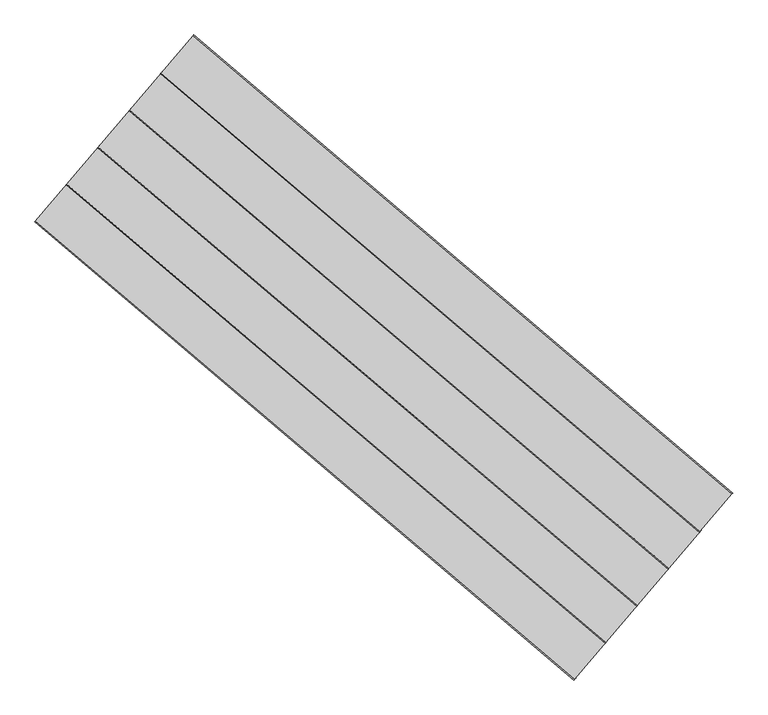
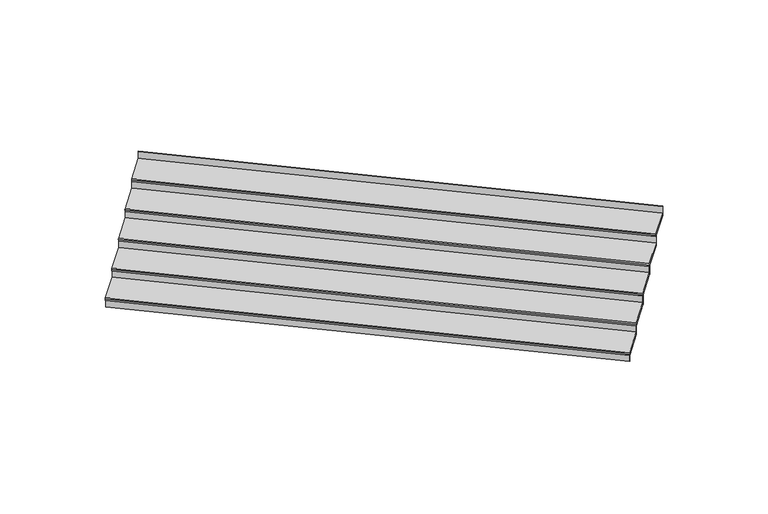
"""IFC4 building model written with IfcOpenShell, lengths in millimetres: stair flight geometry, Wood Steps with 50 mm Tread 20 mm Nosing 13 mm Riser."""

import ifcopenshell
import ifcopenshell.guid

model = None  # the IFC model being written
_history = None  # IfcOwnerHistory: only IFC2X3 demands one
_inside = {}  # id of a spatial element -> (the spatial element, [elements in it])
_under = {}  # id of a project, library or spatial element -> (it, [spatial elements below it])
_declared = {}  # id of a project -> (the project, [libraries it declares])
_typed = {}  # id of a type object -> (the type object, [elements of that type])
_made_of = {}  # id of a material, layer set ... -> (it, [elements and type objects made of it])


def new_model(schema):
    """Start an empty IFC model of exactly this schema.

    Asked for "IFC4X3", IfcOpenShell would pick the latest addendum, in which some entities
    have other attributes; the version numbers below select the first issue.
    IFC2X3 requires an IfcOwnerHistory on every rooted entity: one is made here for all.
    """
    global model, _history
    if schema == "IFC4X3":
        model = ifcopenshell.file(schema_version=(4, 3, 0, 0))
    else:
        model = ifcopenshell.file(schema=schema)
    _inside.clear()
    _under.clear()
    _declared.clear()
    _typed.clear()
    _made_of.clear()
    _history = None
    if model.schema == "IFC2X3":
        org = make("IfcOrganization", Name="unknown")
        user = make(
            "IfcPersonAndOrganization",
            ThePerson=make("IfcPerson", FamilyName="unknown"),
            TheOrganization=org,
        )
        app = make(
            "IfcApplication",
            ApplicationDeveloper=org,
            Version="unknown",
            ApplicationFullName="unknown",
            ApplicationIdentifier="unknown",
        )
        _history = make(
            "IfcOwnerHistory",
            OwningUser=user,
            OwningApplication=app,
            ChangeAction="ADDED",
            CreationDate=0,
        )
    return model


def make(cls, **values):
    """One entity of the class cls with the attributes given. An attribute that is None is left unset."""
    return model.create_entity(
        cls, **{name: value for name, value in values.items() if value is not None}
    )


def rooted(cls, **values):
    """An entity with a GlobalId (a new one), such as an element, a storey or a relation."""
    return make(cls, GlobalId=ifcopenshell.guid.new(), OwnerHistory=_history, **values)


def si_unit(unit_type, name, prefix=None):
    """IfcSIUnit, for example si_unit("LENGTHUNIT", "METRE", prefix="MILLI")."""
    return make("IfcSIUnit", UnitType=unit_type, Prefix=prefix, Name=name)


def assignment(units):
    """IfcUnitAssignment: the units of a project."""
    return None if units is None else make("IfcUnitAssignment", Units=units)


def point(xyz):
    """IfcCartesianPoint."""
    return None if xyz is None else make("IfcCartesianPoint", Coordinates=xyz)


def direction(xyz):
    """IfcDirection."""
    return None if xyz is None else make("IfcDirection", DirectionRatios=xyz)


def frame(location, z_axis=None, x_axis=None):
    """IfcAxis2Placement3D, a coordinate frame: its origin and axes. An axis left out is left unset."""
    return make(
        "IfcAxis2Placement3D",
        Location=point(location),
        Axis=direction(z_axis),
        RefDirection=direction(x_axis),
    )


def origin():
    """The frame at (0, 0, 0) with its axes left unset."""
    return frame((0.0, 0.0, 0.0))


def place(relative_to, where):
    """IfcLocalPlacement: puts the frame where relative to a parent placement (None: the world)."""
    return make(
        "IfcLocalPlacement", PlacementRelTo=relative_to, RelativePlacement=where
    )


def context(
    kind, dimensions, precision=None, world=None, true_north=None, identifier=None
):
    """IfcGeometricRepresentationContext, for example the 3D "Model" context."""
    return make(
        "IfcGeometricRepresentationContext",
        ContextIdentifier=identifier,
        ContextType=kind,
        CoordinateSpaceDimension=dimensions,
        Precision=precision,
        WorldCoordinateSystem=world,
        TrueNorth=true_north,
    )


def project(units=None, contexts=None):
    """IfcProject with its units and contexts."""
    return rooted(
        "IfcProject",
        Name="project",
        RepresentationContexts=contexts,
        UnitsInContext=assignment(units),
    )


def spatial(cls, under=None, at=None, **own):
    """A site, building, storey or space (cls), placed at a placement, below another one or the project."""
    s = rooted(cls, ObjectPlacement=at, **own)
    if under is not None:
        _under.setdefault(under.id(), (under, []))[1].append(s)
    return s


def ellipse_curve(where, semi_axis1, semi_axis2):
    """IfcEllipse in the frame where."""
    return make(
        "IfcEllipse", Position=where, SemiAxis1=semi_axis1, SemiAxis2=semi_axis2
    )


def faces_of(points, faces, orient=None, outer=None):
    """IfcFace entities. A face is a list of loops; a loop is a list of indices into points, from 0.

    orient and outer hold one flag for each loop. By default every Orientation is true, the
    first loop of a face is its IfcFaceOuterBound and the others are IfcFaceBound.
    """
    made = []
    for i, loops in enumerate(faces):
        bounds = []
        for j, loop in enumerate(loops):
            is_outer = j == 0 if outer is None else outer[i][j]
            bounds.append(
                make(
                    "IfcFaceOuterBound" if is_outer else "IfcFaceBound",
                    Bound=make("IfcPolyLoop", Polygon=[points[k] for k in loop]),
                    Orientation=True if orient is None else orient[i][j],
                )
            )
        made.append(make("IfcFace", Bounds=bounds))
    return made


def faceted_brep(points, faces, orient=None, outer=None, voids=None):
    """IfcFacetedBrep: a solid bounded by flat faces; with voids (closed shells), ...WithVoids."""
    shared = [point(p) for p in points]
    hull = make("IfcClosedShell", CfsFaces=faces_of(shared, faces, orient, outer))
    if voids is None:
        return make("IfcFacetedBrep", Outer=hull)
    return make(
        "IfcFacetedBrepWithVoids",
        Outer=hull,
        Voids=[
            make(cls, CfsFaces=faces_of(shared, fs, o, b)) for cls, fs, o, b in voids
        ],
    )


def shape(context_of_items, identifier, shape_type, items):
    """IfcShapeRepresentation: the items that make up one representation, for example the "Body"."""
    return make(
        "IfcShapeRepresentation",
        ContextOfItems=context_of_items,
        RepresentationIdentifier=identifier,
        RepresentationType=shape_type,
        Items=items,
    )


def source(mapping_origin, context_of_items, identifier, shape_type, items):
    """IfcRepresentationMap: a shape defined once, which mapped items show again and again."""
    return make(
        "IfcRepresentationMap",
        MappingOrigin=mapping_origin,
        MappedRepresentation=shape(context_of_items, identifier, shape_type, items),
    )


def transform(
    local_origin,
    x_axis=None,
    y_axis=None,
    z_axis=None,
    scale=None,
    scale2=None,
    scale3=None,
    uniform=True,
):
    """IfcCartesianTransformationOperator3D, or its non-uniform kind. x_axis, y_axis, z_axis: its Axis1, 2, 3."""
    if uniform:
        return make(
            "IfcCartesianTransformationOperator3D",
            Axis1=direction(x_axis),
            Axis2=direction(y_axis),
            LocalOrigin=point(local_origin),
            Scale=scale,
            Axis3=direction(z_axis),
        )
    return make(
        "IfcCartesianTransformationOperator3DnonUniform",
        Axis1=direction(x_axis),
        Axis2=direction(y_axis),
        LocalOrigin=point(local_origin),
        Scale=scale,
        Axis3=direction(z_axis),
        Scale2=scale2,
        Scale3=scale3,
    )


def mapped(mapping_source, mapping_target):
    """IfcMappedItem: shows the shape of a source again, moved by a transform."""
    return make(
        "IfcMappedItem", MappingSource=mapping_source, MappingTarget=mapping_target
    )


def made_of(thing, what):
    """Note that an element or type object is made of a material, layer set ...; save() writes the relation."""
    if what is not None:
        _made_of.setdefault(what.id(), (what, []))[1].append(thing)
    return thing


def element(
    cls,
    number,
    at=None,
    inside=None,
    cuts=None,
    type_object=None,
    material=None,
    context=None,
    identifier="Body",
    shape_type=None,
    held_by="IfcProductDefinitionShape",
    body=None,
    shapes=None,
    **own,
):
    """One element of the class cls, such as IfcWall. Its Tag is "e" and its number.

    at: its placement. inside: the storey or other place that contains it. cuts: it is an
    opening in that element (IfcRelVoidsElement). A single representation is given by context,
    identifier, shape_type and body (its items); several are given by shapes. held_by: the class
    of the entity that holds the representations. save() writes the other relations.
    """
    e = rooted(cls, Tag="e%d" % number, ObjectPlacement=at, **own)
    if body is not None:
        shapes = [shape(context, identifier, shape_type, body)]
    if shapes is not None:
        e.Representation = make(held_by, Representations=shapes)
    if inside is not None:
        _inside.setdefault(inside.id(), (inside, []))[1].append(e)
    if cuts is not None:
        rooted(
            "IfcRelVoidsElement", RelatingBuildingElement=cuts, RelatedOpeningElement=e
        )
    if type_object is not None:
        _typed.setdefault(type_object.id(), (type_object, []))[1].append(e)
    return made_of(e, material)


def aggregate(whole, parts):
    """IfcRelAggregates: a whole, such as a stair, and the parts it consists of."""
    return rooted("IfcRelAggregates", RelatingObject=whole, RelatedObjects=parts)


def save(model, path):
    """Write the relations noted so far, then the file.

    IfcRelAggregates (storeys below a building ...), IfcRelContainedInSpatialStructure (elements
    in a storey), IfcRelDefinesByType, IfcRelAssociatesMaterial and IfcRelDeclares: one each for
    every whole, place, type object, material and project.
    """
    for whole, parts in _under.values():
        aggregate(whole, parts)
    for where, things in _inside.values():
        rooted(
            "IfcRelContainedInSpatialStructure",
            RelatedElements=things,
            RelatingStructure=where,
        )
    for kind, things in _typed.values():
        rooted("IfcRelDefinesByType", RelatedObjects=things, RelatingType=kind)
    for what, things in _made_of.values():
        rooted("IfcRelAssociatesMaterial", RelatedObjects=things, RelatingMaterial=what)
    for by, libraries in _declared.values():
        rooted("IfcRelDeclares", RelatingContext=by, RelatedDefinitions=libraries)
    model.write(path)


def plane_surface(at):
    """IfcPlane: the flat surface through the origin of the frame at, square to its z axis."""
    return make("IfcPlane", Position=at)


def cylinder_surface(at, radius):
    """IfcCylindricalSurface: all points at the distance radius from the z axis of the frame at."""
    return make("IfcCylindricalSurface", Position=at, Radius=radius)


def advanced_brep(points, edges, surfaces, faces):
    """IfcAdvancedBrep: a solid bounded by faces that lie on surfaces and meet in shared edges.

    An edge is (start, end): straight between two places in points (the first is 0);
    or (start, end, curve); or (start, end, curve, False) where it runs against its curve.
    A face is (place in surfaces, loops), or (place, loops, False) where it looks against
    its surface's normal. A loop lists edges by number (the first is 1), with a minus sign
    where the edge is run from its end to its start. The first loop is the outer one.
    """
    corners = [point(p) for p in points]
    vertices = [make("IfcVertexPoint", VertexGeometry=c) for c in corners]
    made = []
    for start, end, *more in edges:
        made.append(
            make(
                "IfcEdgeCurve",
                EdgeStart=vertices[start],
                EdgeEnd=vertices[end],
                EdgeGeometry=more[0] if more else make("IfcPolyline", Points=[corners[start], corners[end]]),
                SameSense=more[1] if len(more) > 1 else True,
            )
        )
    hull = []
    for where, loops, *sense in faces:
        bounds = []
        for j, loop in enumerate(loops):
            ring = [make("IfcOrientedEdge", EdgeElement=made[abs(k) - 1], Orientation=k > 0) for k in loop]
            bounds.append(
                make(
                    "IfcFaceOuterBound" if j == 0 else "IfcFaceBound",
                    Bound=make("IfcEdgeLoop", EdgeList=ring),
                    Orientation=True,
                )
            )
        hull.append(make("IfcAdvancedFace", Bounds=bounds, FaceSurface=surfaces[where], SameSense=sense[0] if sense else True))
    return make("IfcAdvancedBrep", Outer=make("IfcClosedShell", CfsFaces=hull))


def stair_flight_a48ab2fe(model_context):
    return source(origin(), model_context, "Body", "SolidModel", [
        advanced_brep(
        [(899441.7619784, 8342.8773139, 5159.2941176), (899441.7619784, 8342.8773139, 5179.2941176), (892900.955153, 13898.7750034, 5179.2941176), (892900.955153, 13898.7750034, 5159.2941176), (893288.3399748, 14354.8763657, 5179.2941176), (899829.1468001, 8798.9786762, 5179.2941176), (892900.955153, 13898.7750034, 5129.2941176), (893288.3399748, 14354.8763657, 5129.2941176), (899829.1468001, 8798.9786762, 5129.2941176), (899441.7619784, 8342.8773139, 5129.2941176)],
        [
            (0, 1, ellipse_curve(frame((899441.7619784, 8342.8773139, 5169.2941176), z_axis=(-0.762187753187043, 0.6473560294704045, 0.0), x_axis=(-0.6473560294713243, -0.7621877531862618, 0.0)), 10.0, 10.0)),
            (1, 2),
            (2, 3, ellipse_curve(frame((892900.955153, 13898.7750034, 5169.2941176), z_axis=(0.7621877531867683, -0.647356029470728, 0.0), x_axis=(-0.6473560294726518, -0.7621877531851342, 0.0)), 10.0, 10.0)),
            (3, 0),
            (4, 2),
            (1, 5),
            (5, 4),
            (6, 7),
            (7, 8),
            (8, 9),
            (9, 6),
            (4, 7),
            (6, 3),
            (9, 0),
            (8, 5),
        ],
        [
            cylinder_surface(frame((899441.7619784, 8342.8773139, 5169.2941176), z_axis=(0.7621570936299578, -0.6473921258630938, 0.0), x_axis=(0.6473921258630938, 0.7621570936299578, 0.0)), 10.0),
            plane_surface(frame((896820.6102612, 18513.7210055, 5179.2941176), z_axis=(0.0, 0.0, 1.0000000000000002), x_axis=(-0.647356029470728, -0.7621877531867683, 0.0))),
            plane_surface(frame((896820.6102612, 18513.7210055, 5129.2941176), z_axis=(0.0, 0.0, -1.0000000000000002), x_axis=(0.647356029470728, 0.7621877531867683, 0.0))),
            plane_surface(frame((893288.3399748, 14354.8763657, 5179.2941176), z_axis=(-0.7621877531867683, 0.647356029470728, 0.0), x_axis=(0.0, 0.0, -1.0))),
            plane_surface(frame((892900.955153, 13898.7750034, 5179.2941176), z_axis=(-0.6473921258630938, -0.7621570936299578, 0.0), x_axis=(0.0, 0.0, -1.0))),
            plane_surface(frame((899441.7619784, 8342.8773139, 5179.2941176), z_axis=(0.762187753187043, -0.6473560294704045, 0.0), x_axis=(0.0, 0.0, -1.0))),
            plane_surface(frame((899829.1468001, 8798.9786762, 5179.2941176), z_axis=(0.6473921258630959, 0.762157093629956, 0.0), x_axis=(0.0, 0.0, -1.0))),
        ],
        [
            (0, [[1, 2, 3, 4]]),
            (1, [[5, -2, 6, 7]]),
            (2, [[8, 9, 10, 11]]),
            (3, [[-5, 12, -8, 13, -3]]),
            (4, [[-11, 14, -4, -13]]),
            (5, [[-6, -1, -14, -10, 15]]),
            (6, [[-7, -15, -9, -12]]),
        ],
    ),
        faceted_brep([(899448.2355387, 8350.4991914, 5129.2941176), (899448.2355387, 8350.4991914, 5000.0), (899456.327489, 8360.0265383, 5000.0), (899456.327489, 8360.0265383, 5129.2941176), (892907.4287133, 13906.3968809, 5129.2941176), (892915.5206637, 13915.9242278, 5129.2941176), (892915.5206637, 13915.9242278, 5000.0), (892907.4287133, 13906.3968809, 5000.0)], [[[0, 1, 2, 3]], [[4, 5, 6, 7]], [[1, 0, 4, 7]], [[2, 1, 7, 6]], [[3, 2, 6, 5]], [[0, 3, 5, 4]]]),
        faceted_brep([(899829.1468001, 8798.9786762, 5308.5882353), (899829.1468001, 8798.9786762, 5129.2941176), (899837.2387505, 8808.5060231, 5129.2941176), (899837.2387505, 8808.5060231, 5308.5882353), (893288.3399748, 14354.8763657, 5308.5882353), (893296.4319251, 14364.4037126, 5308.5882353), (893296.4319251, 14364.4037126, 5129.2941176), (893288.3399748, 14354.8763657, 5129.2941176)], [[[0, 1, 2, 3]], [[4, 5, 6, 7]], [[1, 0, 4, 7]], [[2, 1, 7, 6]], [[3, 2, 6, 5]], [[0, 3, 5, 4]]]),
        advanced_brep(
        [(893669.2512362, 14803.3558504, 5358.5882353), (893281.8664145, 14347.2544881, 5358.5882353), (899822.6732398, 8791.3567986, 5358.5882353), (900210.0580616, 9247.4581609, 5358.5882353), (893281.8664145, 14347.2544881, 5308.5882353), (893669.2512362, 14803.3558504, 5308.5882353), (900210.0580616, 9247.4581609, 5308.5882353), (899822.6732398, 8791.3567986, 5308.5882353), (893281.8664145, 14347.2544881, 5338.5882353), (899822.6732398, 8791.3567986, 5338.5882353)],
        [
            (0, 1),
            (1, 2),
            (2, 3),
            (3, 0),
            (4, 5),
            (5, 6),
            (6, 7),
            (7, 4),
            (0, 5),
            (4, 8),
            (8, 1, ellipse_curve(frame((893281.8664145, 14347.2544881, 5348.5882353), z_axis=(-0.7621877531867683, 0.647356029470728, 0.0), x_axis=(-0.6473560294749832, -0.7621877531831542, 0.0)), 10.0, 10.0)),
            (7, 9),
            (9, 8),
            (2, 9, ellipse_curve(frame((899822.6732398, 8791.3567986, 5348.5882353), z_axis=(0.762187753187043, -0.6473560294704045, 0.0), x_axis=(-0.6473560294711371, -0.7621877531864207, 0.0)), 10.0, 10.0)),
            (6, 3),
        ],
        [
            plane_surface(frame((896820.6102612, 18513.7210055, 5358.5882353), z_axis=(0.0, 0.0, 1.0000000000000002), x_axis=(-0.647356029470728, -0.7621877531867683, 0.0))),
            plane_surface(frame((896820.6102612, 18513.7210055, 5308.5882353), z_axis=(0.0, 0.0, -1.0000000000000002), x_axis=(0.647356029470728, 0.7621877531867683, 0.0))),
            plane_surface(frame((893669.2512362, 14803.3558504, 5358.5882353), z_axis=(-0.7621877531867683, 0.647356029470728, 0.0), x_axis=(0.0, 0.0, -1.0))),
            plane_surface(frame((893281.8664145, 14347.2544881, 5358.5882353), z_axis=(-0.6473921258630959, -0.762157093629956, 0.0), x_axis=(0.0, 0.0, -1.0))),
            plane_surface(frame((899822.6732398, 8791.3567986, 5358.5882353), z_axis=(0.762187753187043, -0.6473560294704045, 0.0), x_axis=(0.0, 0.0, -1.0))),
            plane_surface(frame((900210.0580616, 9247.4581609, 5358.5882353), z_axis=(0.6473921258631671, 0.7621570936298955, 0.0), x_axis=(0.0, 0.0, -1.0))),
            cylinder_surface(frame((899822.6732398, 8791.3567986, 5348.5882353), z_axis=(0.762157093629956, -0.6473921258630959, 0.0), x_axis=(0.6473921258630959, 0.762157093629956, 0.0)), 10.0),
        ],
        [
            (0, [[1, 2, 3, 4]]),
            (1, [[5, 6, 7, 8]]),
            (2, [[-1, 9, -5, 10, 11]]),
            (3, [[-8, 12, 13, -10]]),
            (4, [[-3, 14, -12, -7, 15]]),
            (5, [[-4, -15, -6, -9]]),
            (6, [[-14, -2, -11, -13]]),
        ],
    ),
        faceted_brep([(900210.0580616, 9247.4581609, 5487.8823529), (900210.0580616, 9247.4581609, 5308.5882353), (900218.150012, 9256.9855078, 5308.5882353), (900218.150012, 9256.9855078, 5487.8823529), (893669.2512362, 14803.3558504, 5487.8823529), (893677.3431866, 14812.8831974, 5487.8823529), (893677.3431866, 14812.8831974, 5308.5882353), (893669.2512362, 14803.3558504, 5308.5882353)], [[[0, 1, 2, 3]], [[4, 5, 6, 7]], [[1, 0, 4, 7]], [[2, 1, 7, 6]], [[3, 2, 6, 5]], [[0, 3, 5, 4]]]),
        advanced_brep(
        [(894050.1624977, 15251.8353352, 5537.8823529), (893662.7776759, 14795.7339729, 5537.8823529), (900203.5845013, 9239.8362834, 5537.8823529), (900590.9693231, 9695.9376457, 5537.8823529), (893662.7776759, 14795.7339729, 5487.8823529), (894050.1624977, 15251.8353352, 5487.8823529), (900590.9693231, 9695.9376457, 5487.8823529), (900203.5845013, 9239.8362834, 5487.8823529), (893662.7776759, 14795.7339729, 5517.8823529), (900203.5845013, 9239.8362834, 5517.8823529)],
        [
            (0, 1),
            (1, 2),
            (2, 3),
            (3, 0),
            (4, 5),
            (5, 6),
            (6, 7),
            (7, 4),
            (0, 5),
            (4, 8),
            (8, 1, ellipse_curve(frame((893662.7776759, 14795.7339729, 5527.8823529), z_axis=(-0.7621877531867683, 0.647356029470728, 0.0), x_axis=(-0.6473560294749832, -0.7621877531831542, 0.0)), 10.0, 10.0)),
            (7, 9),
            (9, 8),
            (2, 9, ellipse_curve(frame((900203.5845013, 9239.8362834, 5527.8823529), z_axis=(0.762187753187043, -0.6473560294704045, 0.0), x_axis=(-0.6473560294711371, -0.7621877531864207, 0.0)), 10.0, 10.0)),
            (6, 3),
        ],
        [
            plane_surface(frame((897201.5215226, 18962.2004903, 5537.8823529), z_axis=(0.0, 0.0, 1.0000000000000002), x_axis=(-0.647356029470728, -0.7621877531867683, 0.0))),
            plane_surface(frame((897201.5215226, 18962.2004903, 5487.8823529), z_axis=(0.0, 0.0, -1.0000000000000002), x_axis=(0.647356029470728, 0.7621877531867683, 0.0))),
            plane_surface(frame((894050.1624977, 15251.8353352, 5537.8823529), z_axis=(-0.7621877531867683, 0.647356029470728, 0.0), x_axis=(0.0, 0.0, -1.0))),
            plane_surface(frame((893662.7776759, 14795.7339729, 5537.8823529), z_axis=(-0.6473921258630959, -0.762157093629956, 0.0), x_axis=(0.0, 0.0, -1.0))),
            plane_surface(frame((900203.5845013, 9239.8362834, 5537.8823529), z_axis=(0.762187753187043, -0.6473560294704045, 0.0), x_axis=(0.0, 0.0, -1.0))),
            plane_surface(frame((900590.9693231, 9695.9376457, 5537.8823529), z_axis=(0.6473921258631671, 0.7621570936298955, 0.0), x_axis=(0.0, 0.0, -1.0))),
            cylinder_surface(frame((900203.5845013, 9239.8362834, 5527.8823529), z_axis=(0.7621570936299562, -0.647392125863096, 0.0), x_axis=(0.647392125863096, 0.7621570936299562, 0.0)), 10.0),
        ],
        [
            (0, [[1, 2, 3, 4]]),
            (1, [[5, 6, 7, 8]]),
            (2, [[-1, 9, -5, 10, 11]]),
            (3, [[-8, 12, 13, -10]]),
            (4, [[-3, 14, -12, -7, 15]]),
            (5, [[-4, -15, -6, -9]]),
            (6, [[-14, -2, -11, -13]]),
        ],
    ),
        faceted_brep([(900590.9693231, 9695.9376457, 5667.1764706), (900590.9693231, 9695.9376457, 5487.8823529), (900599.0612735, 9705.4649926, 5487.8823529), (900599.0612735, 9705.4649926, 5667.1764706), (894050.1624977, 15251.8353352, 5667.1764706), (894058.2544481, 15261.3626821, 5667.1764706), (894058.2544481, 15261.3626821, 5487.8823529), (894050.1624977, 15251.8353352, 5487.8823529)], [[[0, 1, 2, 3]], [[4, 5, 6, 7]], [[1, 0, 4, 7]], [[2, 1, 7, 6]], [[3, 2, 6, 5]], [[0, 3, 5, 4]]]),
        advanced_brep(
        [(894431.0737592, 15700.3148199, 5717.1764706), (894043.6889374, 15244.2134576, 5717.1764706), (900584.4957628, 9688.3157681, 5717.1764706), (900971.8805846, 10144.4171304, 5717.1764706), (894043.6889374, 15244.2134576, 5667.1764706), (894431.0737592, 15700.3148199, 5667.1764706), (900971.8805846, 10144.4171304, 5667.1764706), (900584.4957628, 9688.3157681, 5667.1764706), (894043.6889374, 15244.2134576, 5697.1764706), (900584.4957628, 9688.3157681, 5697.1764706)],
        [
            (0, 1),
            (1, 2),
            (2, 3),
            (3, 0),
            (4, 5),
            (5, 6),
            (6, 7),
            (7, 4),
            (0, 5),
            (4, 8),
            (8, 1, ellipse_curve(frame((894043.6889374, 15244.2134576, 5707.1764706), z_axis=(-0.7621877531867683, 0.647356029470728, 0.0), x_axis=(-0.647356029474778, -0.7621877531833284, 0.0)), 10.0, 10.0)),
            (7, 9),
            (9, 8),
            (2, 9, ellipse_curve(frame((900584.4957628, 9688.3157681, 5707.1764706), z_axis=(0.762187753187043, -0.6473560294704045, 0.0), x_axis=(-0.6473560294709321, -0.762187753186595, 0.0)), 10.0, 10.0)),
            (6, 3),
        ],
        [
            plane_surface(frame((897582.4327841, 19410.679975, 5717.1764706), z_axis=(0.0, 0.0, 1.0000000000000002), x_axis=(-0.647356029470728, -0.7621877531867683, 0.0))),
            plane_surface(frame((897582.4327841, 19410.679975, 5667.1764706), z_axis=(0.0, 0.0, -1.0000000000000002), x_axis=(0.647356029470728, 0.7621877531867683, 0.0))),
            plane_surface(frame((894431.0737592, 15700.3148199, 5717.1764706), z_axis=(-0.7621877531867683, 0.647356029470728, 0.0), x_axis=(0.0, 0.0, -1.0))),
            plane_surface(frame((894043.6889374, 15244.2134576, 5717.1764706), z_axis=(-0.6473921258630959, -0.762157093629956, 0.0), x_axis=(0.0, 0.0, -1.0))),
            plane_surface(frame((900584.4957628, 9688.3157681, 5717.1764706), z_axis=(0.762187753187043, -0.6473560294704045, 0.0), x_axis=(0.0, 0.0, -1.0))),
            plane_surface(frame((900971.8805846, 10144.4171304, 5717.1764706), z_axis=(0.6473921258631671, 0.7621570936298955, 0.0), x_axis=(0.0, 0.0, -1.0))),
            cylinder_surface(frame((900584.4957628, 9688.3157681, 5707.1764706), z_axis=(0.7621570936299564, -0.6473921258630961, 0.0), x_axis=(0.6473921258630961, 0.7621570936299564, 0.0)), 10.0),
        ],
        [
            (0, [[1, 2, 3, 4]]),
            (1, [[5, 6, 7, 8]]),
            (2, [[-1, 9, -5, 10, 11]]),
            (3, [[-8, 12, 13, -10]]),
            (4, [[-3, 14, -12, -7, 15]]),
            (5, [[-4, -15, -6, -9]]),
            (6, [[-14, -2, -11, -13]]),
        ],
    ),
        faceted_brep([(900971.8805846, 10144.4171304, 5846.4705882), (900971.8805846, 10144.4171304, 5667.1764706), (900979.972535, 10153.9444773, 5667.1764706), (900979.972535, 10153.9444773, 5846.4705882), (894431.0737592, 15700.3148199, 5846.4705882), (894439.1657096, 15709.8421669, 5846.4705882), (894439.1657096, 15709.8421669, 5667.1764706), (894431.0737592, 15700.3148199, 5667.1764706)], [[[0, 1, 2, 3]], [[4, 5, 6, 7]], [[1, 0, 4, 7]], [[2, 1, 7, 6]], [[3, 2, 6, 5]], [[0, 3, 5, 4]]]),
        faceted_brep([(901352.7918461, 10592.8966152, 6025.7647059), (901352.7918461, 10592.8966152, 5846.4705882), (901360.8837964, 10602.4239621, 5846.4705882), (901360.8837964, 10602.4239621, 6025.7647059), (894811.9850207, 16148.7943047, 6025.7647059), (894820.0769711, 16158.3216516, 6025.7647059), (894820.0769711, 16158.3216516, 5846.4705882), (894811.9850207, 16148.7943047, 5846.4705882)], [[[0, 1, 2, 3]], [[4, 5, 6, 7]], [[1, 0, 4, 7]], [[2, 1, 7, 6]], [[3, 2, 6, 5]], [[0, 3, 5, 4]]]),
        advanced_brep(
        [(894811.9850207, 16148.7943047, 5896.4705882), (894424.6001989, 15692.6929424, 5896.4705882), (900965.4070243, 10136.7952529, 5896.4705882), (901352.7918461, 10592.8966152, 5896.4705882), (894424.6001989, 15692.6929424, 5846.4705882), (894811.9850207, 16148.7943047, 5846.4705882), (901352.7918461, 10592.8966152, 5846.4705882), (900965.4070243, 10136.7952529, 5846.4705882), (894424.6001989, 15692.6929424, 5876.4705882), (900965.4070243, 10136.7952529, 5876.4705882)],
        [
            (0, 1),
            (1, 2),
            (2, 3),
            (3, 0),
            (4, 5),
            (5, 6),
            (6, 7),
            (7, 4),
            (0, 5),
            (4, 8),
            (8, 1, ellipse_curve(frame((894424.6001989, 15692.6929424, 5886.4705882), z_axis=(-0.7621877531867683, 0.647356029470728, 0.0), x_axis=(-0.647356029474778, -0.7621877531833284, 0.0)), 10.0, 10.0)),
            (7, 9),
            (9, 8),
            (2, 9, ellipse_curve(frame((900965.4070243, 10136.7952529, 5886.4705882), z_axis=(0.762187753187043, -0.6473560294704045, 0.0), x_axis=(-0.6473560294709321, -0.762187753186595, 0.0)), 10.0, 10.0)),
            (6, 3),
        ],
        [
            plane_surface(frame((897963.3440456, 19859.1594598, 5896.4705882), z_axis=(0.0, 0.0, 1.0000000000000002), x_axis=(-0.647356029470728, -0.7621877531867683, 0.0))),
            plane_surface(frame((897963.3440456, 19859.1594598, 5846.4705882), z_axis=(0.0, 0.0, -1.0000000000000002), x_axis=(0.647356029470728, 0.7621877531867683, 0.0))),
            plane_surface(frame((894811.9850207, 16148.7943047, 5896.4705882), z_axis=(-0.7621877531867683, 0.647356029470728, 0.0), x_axis=(0.0, 0.0, -1.0))),
            plane_surface(frame((894424.6001989, 15692.6929424, 5896.4705882), z_axis=(-0.6473921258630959, -0.762157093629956, 0.0), x_axis=(0.0, 0.0, -1.0))),
            plane_surface(frame((900965.4070243, 10136.7952529, 5896.4705882), z_axis=(0.762187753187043, -0.6473560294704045, 0.0), x_axis=(0.0, 0.0, -1.0))),
            plane_surface(frame((901352.7918461, 10592.8966152, 5896.4705882), z_axis=(0.6473921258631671, 0.7621570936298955, 0.0), x_axis=(0.0, 0.0, -1.0))),
            cylinder_surface(frame((900965.4070243, 10136.7952529, 5886.4705882), z_axis=(0.7621570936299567, -0.6473921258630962, 0.0), x_axis=(0.6473921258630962, 0.7621570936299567, 0.0)), 10.0),
        ],
        [
            (0, [[1, 2, 3, 4]]),
            (1, [[5, 6, 7, 8]]),
            (2, [[-1, 9, -5, 10, 11]]),
            (3, [[-8, 12, 13, -10]]),
            (4, [[-3, 14, -12, -7, 15]]),
            (5, [[-4, -15, -6, -9]]),
            (6, [[-14, -2, -11, -13]]),
        ],
    ),
    ])


if __name__ == "__main__":
    model = new_model("IFC4")
    model_context = context("Model", 3, world=origin())
    ifc_project = project(units=[si_unit("LENGTHUNIT", "METRE", prefix="MILLI")], contexts=[model_context])
    site = spatial("IfcSite", under=ifc_project)
    building = spatial("IfcBuilding", under=site)
    placement = place(None, origin())
    stair_flight_shape = stair_flight_a48ab2fe(model_context)
    element("IfcStairFlight", 1, ObjectType="Wood Steps with 50 mm Tread 20 mm Nosing 13 mm Riser", at=placement, inside=building, context=model_context, shape_type="MappedRepresentation", body=[
        mapped(stair_flight_shape, transform((0.0, 0.0, 0.0), x_axis=(1.0, 0.0, 0.0), y_axis=(0.0, 1.0, 0.0), z_axis=(0.0, 0.0, 1.0))),
    ])
    save(model, "model.ifc")
